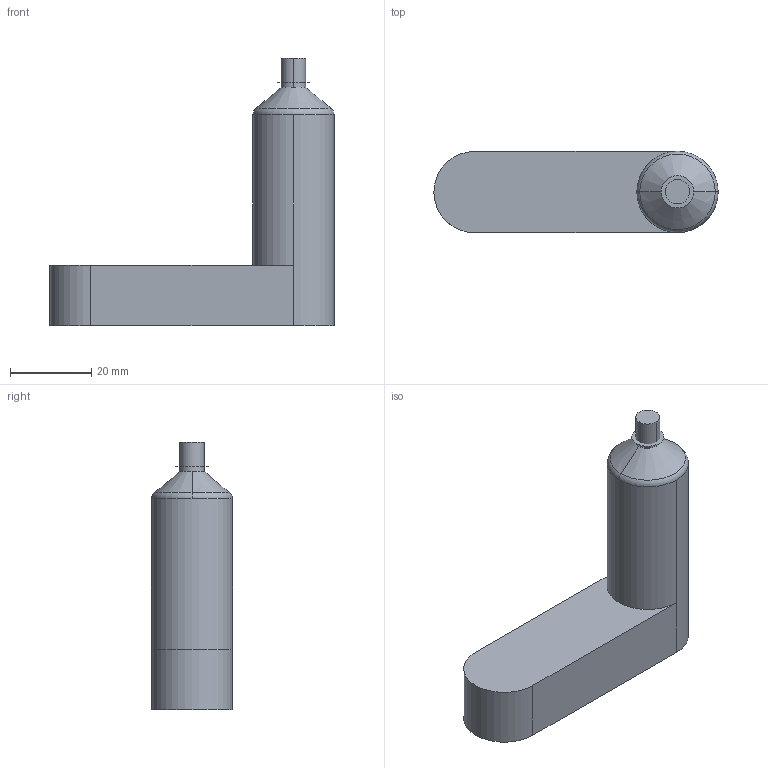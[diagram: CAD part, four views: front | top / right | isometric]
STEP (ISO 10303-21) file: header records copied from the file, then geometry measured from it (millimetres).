
FILE_DESCRIPTION (( 'STEP AP214' ), '1' );
FILE_NAME ('06E-03-060-##P.STEP', '2023-01-03T08:14:47', ( '' ), ( '' ), 'SwSTEP 2.0', 'SolidWorks 2018', '' );
FILE_SCHEMA (( 'AUTOMOTIVE_DESIGN' ));
Length unit declared in the file: millimetre
Products named in the file (3): cutout_06E-03-060-##P; nozzle_06E-03-060-##P; 06E-03-060-##P
Assembly tree (2 placements, depth 2):
  06E-03-060-##P
    nozzle_06E-03-060-##P
    cutout_06E-03-060-##P
Bounding box: 70 x 20 x 66 mm (x, y, z)
Volume: 32678.4 mm3; surface area: 14586.7 mm2
Topology: 1 solids, 4 shells, 159 faces, 416 edges, 260 vertices
Faces by surface type: cylinder 74, plane 52, cone 16, torus 13, bspline 4
Entity records: 9189 total; most frequent: CARTESIAN_POINT 5106, DIRECTION 880, ORIENTED_EDGE 830, EDGE_CURVE 416, AXIS2_PLACEMENT_3D 348, VERTEX_POINT 260, CIRCLE 187, VECTOR 184
